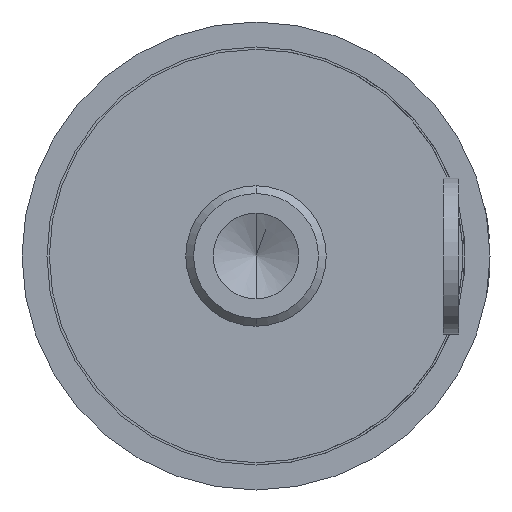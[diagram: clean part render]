
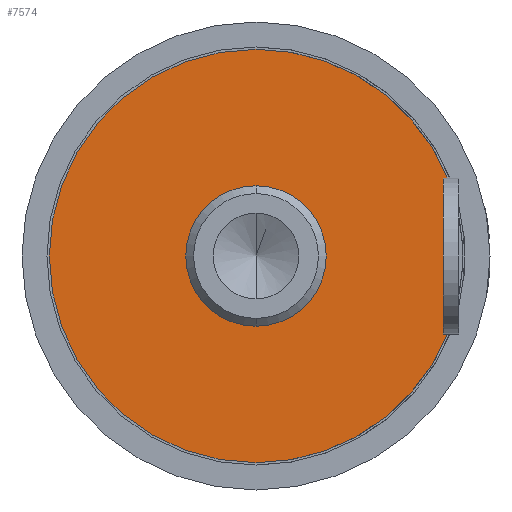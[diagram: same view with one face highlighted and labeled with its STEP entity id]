
A CAD part, front view. The second image highlights one B-rep face of the part: STEP entity #7574.
In plain terms, the highlighted planar face has unit normal (0, -1, 0).
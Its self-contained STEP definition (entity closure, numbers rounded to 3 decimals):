
#11=CARTESIAN_POINT('',(0.,0.,0.));
#12=DIRECTION('',(0.,-1.,0.));
#13=DIRECTION('',(0.,0.,-1.));
#14=AXIS2_PLACEMENT_3D('',#11,#12,#13);
#16=CARTESIAN_POINT('',(0.,0.,0.));
#17=DIRECTION('',(0.,-1.,0.));
#18=DIRECTION('',(0.,0.,1.));
#19=AXIS2_PLACEMENT_3D('',#16,#17,#18);
#57=DIRECTION('',(-1.,0.,0.));
#58=VECTOR('',#57,0.054);
#59=CARTESIAN_POINT('',(2.454,0.,1.));
#60=LINE('',#59,#58);
#61=DIRECTION('',(0.,0.,-1.));
#62=VECTOR('',#61,2.);
#63=CARTESIAN_POINT('',(2.4,0.,1.));
#64=LINE('',#63,#62);
#65=DIRECTION('',(1.,0.,0.));
#66=VECTOR('',#65,0.054);
#67=CARTESIAN_POINT('',(2.4,0.,-1.));
#68=LINE('',#67,#66);
#69=CARTESIAN_POINT('',(0.,0.,0.));
#70=DIRECTION('',(0.,-1.,0.));
#71=DIRECTION('',(0.,0.,-1.));
#72=AXIS2_PLACEMENT_3D('',#69,#70,#71);
#74=CARTESIAN_POINT('',(0.,0.,0.));
#75=DIRECTION('',(0.,-1.,0.));
#76=DIRECTION('',(0.,0.,1.));
#77=AXIS2_PLACEMENT_3D('',#74,#75,#76);
#79=CARTESIAN_POINT('',(0.,0.,0.));
#80=DIRECTION('',(0.,-1.,0.));
#81=DIRECTION('',(0.926,0.,0.377));
#82=AXIS2_PLACEMENT_3D('',#79,#80,#81);
#6124=CARTESIAN_POINT('',(0.,0.,2.65));
#6125=CARTESIAN_POINT('',(0.,0.,-2.65));
#6126=VERTEX_POINT('',#6124);
#6127=VERTEX_POINT('',#6125);
#6132=CARTESIAN_POINT('',(0.,0.,-0.9));
#6133=CARTESIAN_POINT('',(0.,0.,0.9));
#6134=VERTEX_POINT('',#6132);
#6135=VERTEX_POINT('',#6133);
#6158=CARTESIAN_POINT('',(2.454,0.,1.));
#6159=CARTESIAN_POINT('',(2.4,0.,1.));
#6160=VERTEX_POINT('',#6158);
#6161=VERTEX_POINT('',#6159);
#6162=CARTESIAN_POINT('',(2.4,0.,-1.));
#6163=VERTEX_POINT('',#6162);
#6164=CARTESIAN_POINT('',(2.454,0.,-1.));
#6165=VERTEX_POINT('',#6164);
#7549=CARTESIAN_POINT('',(0.,0.,0.));
#7550=DIRECTION('',(0.,1.,0.));
#7551=DIRECTION('',(1.,0.,0.));
#7552=AXIS2_PLACEMENT_3D('',#7549,#7550,#7551);
#7553=PLANE('',#7552);
#7555=ORIENTED_EDGE('',*,*,#7554,.T.);
#7557=ORIENTED_EDGE('',*,*,#7556,.T.);
#7559=ORIENTED_EDGE('',*,*,#7558,.T.);
#7561=ORIENTED_EDGE('',*,*,#7560,.F.);
#7563=ORIENTED_EDGE('',*,*,#7562,.F.);
#7565=ORIENTED_EDGE('',*,*,#7564,.F.);
#7566=EDGE_LOOP('',(#7555,#7557,#7559,#7561,#7563,#7565));
#7567=FACE_OUTER_BOUND('',#7566,.F.);
#7569=ORIENTED_EDGE('',*,*,#7568,.T.);
#7571=ORIENTED_EDGE('',*,*,#7570,.T.);
#7572=EDGE_LOOP('',(#7569,#7571));
#7573=FACE_BOUND('',#7572,.F.);
#15=CIRCLE('',#14,0.9);
#20=CIRCLE('',#19,0.9);
#73=CIRCLE('',#72,2.65);
#78=CIRCLE('',#77,2.65);
#83=CIRCLE('',#82,2.65);
#7554=EDGE_CURVE('',#6160,#6161,#60,.T.);
#7556=EDGE_CURVE('',#6161,#6163,#64,.T.);
#7558=EDGE_CURVE('',#6163,#6165,#68,.T.);
#7560=EDGE_CURVE('',#6127,#6165,#73,.T.);
#7562=EDGE_CURVE('',#6126,#6127,#78,.T.);
#7564=EDGE_CURVE('',#6160,#6126,#83,.T.);
#7568=EDGE_CURVE('',#6134,#6135,#15,.T.);
#7570=EDGE_CURVE('',#6135,#6134,#20,.T.);
#7574=ADVANCED_FACE('',(#7567,#7573),#7553,.F.);
